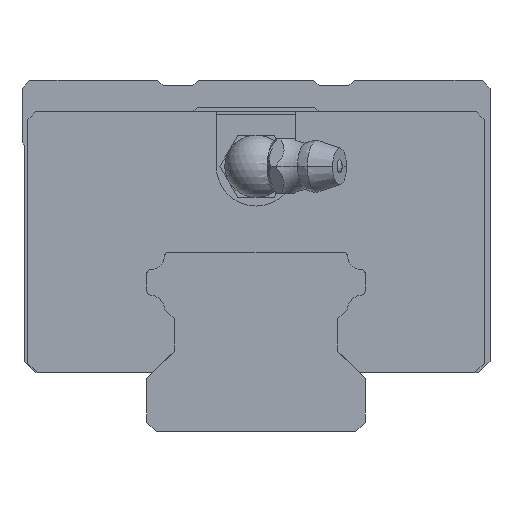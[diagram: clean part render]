
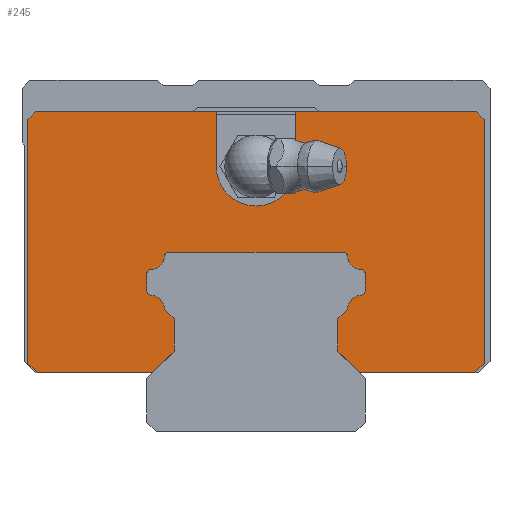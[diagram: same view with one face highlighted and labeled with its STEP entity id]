
A CAD part, front view. The second image highlights one B-rep face of the part: STEP entity #245.
In plain terms, the highlighted planar face has unit normal (0, -1, 0).
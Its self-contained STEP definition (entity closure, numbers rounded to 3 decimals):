
#245=ADVANCED_FACE('',(#554),#555,.F.);
#554=FACE_OUTER_BOUND('',#1116,.T.);
#555=PLANE('',#1117);
#1116=EDGE_LOOP('',(#1997,#1998,#1999,#2000,#2001,#2002,#2003,#2004,#2005,#2006,#2007,#2008,#2009,#2010,#2011,#2012,#2013,#2014,#2015,#2016,#2017,#2018,#2019,#2020,#2021,#2022,#2023,#2024,#2025,#2026,#2027,#2028,#2029));
#1117=AXIS2_PLACEMENT_3D('',#2030,#2031,#2032);
#1997=ORIENTED_EDGE('',*,*,#3571,.F.);
#1998=ORIENTED_EDGE('',*,*,#3572,.T.);
#1999=ORIENTED_EDGE('',*,*,#3573,.T.);
#2000=ORIENTED_EDGE('',*,*,#3574,.T.);
#2001=ORIENTED_EDGE('',*,*,#3575,.T.);
#2002=ORIENTED_EDGE('',*,*,#3576,.T.);
#2003=ORIENTED_EDGE('',*,*,#3577,.F.);
#2004=ORIENTED_EDGE('',*,*,#3578,.F.);
#2005=ORIENTED_EDGE('',*,*,#3512,.F.);
#2006=ORIENTED_EDGE('',*,*,#3579,.F.);
#2007=ORIENTED_EDGE('',*,*,#3580,.T.);
#2008=ORIENTED_EDGE('',*,*,#3581,.T.);
#2009=ORIENTED_EDGE('',*,*,#3582,.T.);
#2010=ORIENTED_EDGE('',*,*,#3583,.T.);
#2011=ORIENTED_EDGE('',*,*,#3584,.T.);
#2012=ORIENTED_EDGE('',*,*,#3585,.F.);
#2013=ORIENTED_EDGE('',*,*,#3586,.F.);
#2014=ORIENTED_EDGE('',*,*,#3587,.F.);
#2015=ORIENTED_EDGE('',*,*,#3588,.F.);
#2016=ORIENTED_EDGE('',*,*,#3589,.F.);
#2017=ORIENTED_EDGE('',*,*,#3590,.F.);
#2018=ORIENTED_EDGE('',*,*,#3591,.F.);
#2019=ORIENTED_EDGE('',*,*,#3592,.F.);
#2020=ORIENTED_EDGE('',*,*,#3593,.F.);
#2021=ORIENTED_EDGE('',*,*,#3594,.F.);
#2022=ORIENTED_EDGE('',*,*,#3595,.F.);
#2023=ORIENTED_EDGE('',*,*,#3596,.F.);
#2024=ORIENTED_EDGE('',*,*,#3597,.F.);
#2025=ORIENTED_EDGE('',*,*,#3598,.F.);
#2026=ORIENTED_EDGE('',*,*,#3599,.F.);
#2027=ORIENTED_EDGE('',*,*,#3600,.F.);
#2028=ORIENTED_EDGE('',*,*,#3601,.F.);
#2029=ORIENTED_EDGE('',*,*,#3602,.F.);
#2030=CARTESIAN_POINT('',(44.9,-13.8,24.35));
#2031=DIRECTION('',(0.0,1.0,0.0));
#2032=DIRECTION('',(1.0,0.0,0.0));
#3512=EDGE_CURVE('',#4231,#4227,#4233,.T.);
#3571=EDGE_CURVE('',#4333,#4334,#4335,.T.);
#3572=EDGE_CURVE('',#4333,#4336,#4337,.T.);
#3573=EDGE_CURVE('',#4336,#4338,#4339,.T.);
#3574=EDGE_CURVE('',#4338,#4340,#4341,.T.);
#3575=EDGE_CURVE('',#4340,#4342,#4343,.T.);
#3576=EDGE_CURVE('',#4342,#4344,#4345,.T.);
#3577=EDGE_CURVE('',#4346,#4344,#4347,.T.);
#3578=EDGE_CURVE('',#4227,#4346,#4348,.T.);
#3579=EDGE_CURVE('',#4349,#4231,#4350,.T.);
#3580=EDGE_CURVE('',#4349,#4351,#4352,.T.);
#3581=EDGE_CURVE('',#4351,#4353,#4354,.T.);
#3582=EDGE_CURVE('',#4353,#4355,#4356,.T.);
#3583=EDGE_CURVE('',#4355,#4357,#4358,.T.);
#3584=EDGE_CURVE('',#4357,#4359,#4360,.T.);
#3585=EDGE_CURVE('',#4361,#4359,#4362,.T.);
#3586=EDGE_CURVE('',#4363,#4361,#4364,.T.);
#3587=EDGE_CURVE('',#4365,#4363,#4366,.T.);
#3588=EDGE_CURVE('',#4367,#4365,#4368,.T.);
#3589=EDGE_CURVE('',#4369,#4367,#4370,.T.);
#3590=EDGE_CURVE('',#4371,#4369,#4372,.T.);
#3591=EDGE_CURVE('',#4373,#4371,#4374,.T.);
#3592=EDGE_CURVE('',#4375,#4373,#4376,.T.);
#3593=EDGE_CURVE('',#4377,#4375,#4378,.T.);
#3594=EDGE_CURVE('',#4379,#4377,#4380,.T.);
#3595=EDGE_CURVE('',#4381,#4379,#4382,.T.);
#3596=EDGE_CURVE('',#4383,#4381,#4384,.T.);
#3597=EDGE_CURVE('',#4385,#4383,#4386,.T.);
#3598=EDGE_CURVE('',#4387,#4385,#4388,.T.);
#3599=EDGE_CURVE('',#4389,#4387,#4390,.T.);
#3600=EDGE_CURVE('',#4391,#4389,#4392,.T.);
#3601=EDGE_CURVE('',#4393,#4391,#4394,.T.);
#3602=EDGE_CURVE('',#4334,#4393,#4395,.T.);
#4227=VERTEX_POINT('',#5459);
#4231=VERTEX_POINT('',#5464);
#4233=CIRCLE('',#5467,5.1);
#4333=VERTEX_POINT('',#5601);
#4334=VERTEX_POINT('',#5602);
#4335=LINE('',#5603,#5604);
#4336=VERTEX_POINT('',#5605);
#4337=LINE('',#5606,#5607);
#4338=VERTEX_POINT('',#5608);
#4339=LINE('',#5609,#5610);
#4340=VERTEX_POINT('',#5611);
#4341=LINE('',#5612,#5613);
#4342=VERTEX_POINT('',#5614);
#4343=LINE('',#5615,#5616);
#4344=VERTEX_POINT('',#5617);
#4345=LINE('',#5618,#5619);
#4346=VERTEX_POINT('',#5620);
#4347=LINE('',#5621,#5622);
#4348=CIRCLE('',#5623,5.1);
#4349=VERTEX_POINT('',#5624);
#4350=LINE('',#5625,#5626);
#4351=VERTEX_POINT('',#5627);
#4352=LINE('',#5628,#5629);
#4353=VERTEX_POINT('',#5630);
#4354=LINE('',#5631,#5632);
#4355=VERTEX_POINT('',#5633);
#4356=LINE('',#5634,#5635);
#4357=VERTEX_POINT('',#5636);
#4358=LINE('',#5637,#5638);
#4359=VERTEX_POINT('',#5639);
#4360=LINE('',#5640,#5641);
#4361=VERTEX_POINT('',#5642);
#4362=LINE('',#5643,#5644);
#4363=VERTEX_POINT('',#5645);
#4364=LINE('',#5646,#5647);
#4365=VERTEX_POINT('',#5648);
#4366=LINE('',#5649,#5650);
#4367=VERTEX_POINT('',#5651);
#4368=CIRCLE('',#5652,2.0);
#4369=VERTEX_POINT('',#5653);
#4370=CIRCLE('',#5654,0.5);
#4371=VERTEX_POINT('',#5655);
#4372=LINE('',#5656,#5657);
#4373=VERTEX_POINT('',#5658);
#4374=CIRCLE('',#5659,0.5);
#4375=VERTEX_POINT('',#5660);
#4376=CIRCLE('',#5661,2.0);
#4377=VERTEX_POINT('',#5662);
#4378=CIRCLE('',#5663,0.5);
#4379=VERTEX_POINT('',#5664);
#4380=LINE('',#5665,#5666);
#4381=VERTEX_POINT('',#5667);
#4382=CIRCLE('',#5668,0.5);
#4383=VERTEX_POINT('',#5669);
#4384=CIRCLE('',#5670,2.0);
#4385=VERTEX_POINT('',#5671);
#4386=CIRCLE('',#5672,0.5);
#4387=VERTEX_POINT('',#5673);
#4388=LINE('',#5674,#5675);
#4389=VERTEX_POINT('',#5676);
#4390=CIRCLE('',#5677,0.5);
#4391=VERTEX_POINT('',#5678);
#4392=CIRCLE('',#5679,2.0);
#4393=VERTEX_POINT('',#5680);
#4394=LINE('',#5681,#5682);
#4395=LINE('',#5683,#5684);
#5459=CARTESIAN_POINT('',(0.,-13.8,28.9));
#5464=CARTESIAN_POINT('',(-5.1,-13.8,34.0));
#5467=AXIS2_PLACEMENT_3D('',#6807,#6808,#6809);
#5601=CARTESIAN_POINT('',(13.3,-13.8,7.5));
#5602=CARTESIAN_POINT('',(10.5,-13.8,10.3));
#5603=CARTESIAN_POINT('',(20.675,-13.8,0.125));
#5604=VECTOR('',#6916,1000.0);
#5605=CARTESIAN_POINT('',(28.05,-13.8,7.5));
#5606=CARTESIAN_POINT('',(-28.05,-13.8,7.5));
#5607=VECTOR('',#6917,1000.0);
#5608=CARTESIAN_POINT('',(29.25,-13.8,8.7));
#5609=CARTESIAN_POINT('',(28.05,-13.8,7.5));
#5610=VECTOR('',#6918,1000.0);
#5611=CARTESIAN_POINT('',(29.25,-13.8,40.0));
#5612=CARTESIAN_POINT('',(29.25,-13.8,8.7));
#5613=VECTOR('',#6919,1000.0);
#5614=CARTESIAN_POINT('',(28.25,-13.8,41.0));
#5615=CARTESIAN_POINT('',(29.25,-13.8,40.0));
#5616=VECTOR('',#6920,1000.0);
#5617=CARTESIAN_POINT('',(5.1,-13.8,41.0));
#5618=CARTESIAN_POINT('',(28.25,-13.8,41.0));
#5619=VECTOR('',#6921,1000.0);
#5620=CARTESIAN_POINT('',(5.1,-13.8,34.0));
#5621=CARTESIAN_POINT('',(5.1,-13.8,34.0));
#5622=VECTOR('',#6922,1000.0);
#5623=AXIS2_PLACEMENT_3D('',#6923,#6924,#6925);
#5624=CARTESIAN_POINT('',(-5.1,-13.8,41.0));
#5625=CARTESIAN_POINT('',(-5.1,-13.8,41.0));
#5626=VECTOR('',#6926,1000.0);
#5627=CARTESIAN_POINT('',(-28.25,-13.8,41.0));
#5628=CARTESIAN_POINT('',(28.25,-13.8,41.0));
#5629=VECTOR('',#6927,1000.0);
#5630=CARTESIAN_POINT('',(-29.25,-13.8,40.0));
#5631=CARTESIAN_POINT('',(-28.25,-13.8,41.0));
#5632=VECTOR('',#6928,1000.0);
#5633=CARTESIAN_POINT('',(-29.25,-13.8,8.7));
#5634=CARTESIAN_POINT('',(-29.25,-13.8,40.0));
#5635=VECTOR('',#6929,1000.0);
#5636=CARTESIAN_POINT('',(-28.05,-13.8,7.5));
#5637=CARTESIAN_POINT('',(-29.25,-13.8,8.7));
#5638=VECTOR('',#6930,1000.0);
#5639=CARTESIAN_POINT('',(-13.3,-13.8,7.5));
#5640=CARTESIAN_POINT('',(-28.05,-13.8,7.5));
#5641=VECTOR('',#6931,1000.0);
#5642=CARTESIAN_POINT('',(-10.5,-13.8,10.3));
#5643=CARTESIAN_POINT('',(24.225,-13.8,45.025));
#5644=VECTOR('',#6932,1000.0);
#5645=CARTESIAN_POINT('',(-10.5,-13.8,14.502));
#5646=CARTESIAN_POINT('',(-10.5,-13.8,24.35));
#5647=VECTOR('',#6933,1000.0);
#5648=CARTESIAN_POINT('',(-11.701,-13.8,15.703));
#5649=CARTESIAN_POINT('',(12.276,-13.8,-8.274));
#5650=VECTOR('',#6934,1000.0);
#5651=CARTESIAN_POINT('',(-13.536,-13.8,17.496));
#5652=AXIS2_PLACEMENT_3D('',#6935,#6936,#6937);
#5653=CARTESIAN_POINT('',(-14.,-13.8,17.995));
#5654=AXIS2_PLACEMENT_3D('',#6938,#6939,#6940);
#5655=CARTESIAN_POINT('',(-14.,-13.8,20.226));
#5656=CARTESIAN_POINT('',(-14.,-13.8,24.35));
#5657=VECTOR('',#6941,1000.0);
#5658=CARTESIAN_POINT('',(-13.536,-13.8,20.725));
#5659=AXIS2_PLACEMENT_3D('',#6942,#6943,#6944);
#5660=CARTESIAN_POINT('',(-11.699,-13.8,22.544));
#5661=AXIS2_PLACEMENT_3D('',#6945,#6946,#6947);
#5662=CARTESIAN_POINT('',(-11.201,-13.8,23.0));
#5663=AXIS2_PLACEMENT_3D('',#6948,#6949,#6950);
#5664=CARTESIAN_POINT('',(11.201,-13.8,23.0));
#5665=CARTESIAN_POINT('',(44.9,-13.8,23.0));
#5666=VECTOR('',#6951,1000.0);
#5667=CARTESIAN_POINT('',(11.699,-13.8,22.544));
#5668=AXIS2_PLACEMENT_3D('',#6952,#6953,#6954);
#5669=CARTESIAN_POINT('',(13.536,-13.8,20.725));
#5670=AXIS2_PLACEMENT_3D('',#6955,#6956,#6957);
#5671=CARTESIAN_POINT('',(14.,-13.8,20.226));
#5672=AXIS2_PLACEMENT_3D('',#6958,#6959,#6960);
#5673=CARTESIAN_POINT('',(14.,-13.8,17.995));
#5674=CARTESIAN_POINT('',(14.,-13.8,24.35));
#5675=VECTOR('',#6961,1000.0);
#5676=CARTESIAN_POINT('',(13.536,-13.8,17.496));
#5677=AXIS2_PLACEMENT_3D('',#6962,#6963,#6964);
#5678=CARTESIAN_POINT('',(11.701,-13.8,15.703));
#5679=AXIS2_PLACEMENT_3D('',#6965,#6966,#6967);
#5680=CARTESIAN_POINT('',(10.5,-13.8,14.502));
#5681=CARTESIAN_POINT('',(32.624,-13.8,36.626));
#5682=VECTOR('',#6968,1000.0);
#5683=CARTESIAN_POINT('',(10.5,-13.8,24.35));
#5684=VECTOR('',#6969,1000.0);
#6807=CARTESIAN_POINT('',(0.0,-13.8,34.0));
#6808=DIRECTION('',(0.0,-1.0,0.0));
#6809=DIRECTION('',(-1.0,0.0,0.0));
#6916=DIRECTION('',(-0.707,0.0,0.707));
#6917=DIRECTION('',(1.0,0.0,0.0));
#6918=DIRECTION('',(0.707,0.0,0.707));
#6919=DIRECTION('',(0.0,0.0,1.0));
#6920=DIRECTION('',(-0.707,0.0,0.707));
#6921=DIRECTION('',(-1.0,0.0,0.0));
#6922=DIRECTION('',(0.0,0.0,1.0));
#6923=CARTESIAN_POINT('',(0.0,-13.8,34.0));
#6924=DIRECTION('',(0.0,-1.0,0.0));
#6925=DIRECTION('',(-1.0,0.0,0.0));
#6926=DIRECTION('',(0.0,0.0,-1.0));
#6927=DIRECTION('',(-1.0,0.0,0.0));
#6928=DIRECTION('',(-0.707,0.0,-0.707));
#6929=DIRECTION('',(0.0,0.0,-1.0));
#6930=DIRECTION('',(0.707,0.0,-0.707));
#6931=DIRECTION('',(1.0,0.0,0.0));
#6932=DIRECTION('',(-0.707,0.0,-0.707));
#6933=DIRECTION('',(0.0,0.0,-1.0));
#6934=DIRECTION('',(0.707,0.0,-0.707));
#6935=CARTESIAN_POINT('',(-13.691,-13.8,15.502));
#6936=DIRECTION('',(0.0,1.0,0.0));
#6937=DIRECTION('',(0.0,0.0,1.0));
#6938=CARTESIAN_POINT('',(-13.5,-13.8,17.995));
#6939=DIRECTION('',(0.0,-1.0,0.0));
#6940=DIRECTION('',(0.0,0.0,1.0));
#6941=DIRECTION('',(0.0,0.0,-1.0));
#6942=CARTESIAN_POINT('',(-13.5,-13.8,20.226));
#6943=DIRECTION('',(0.0,-1.0,0.0));
#6944=DIRECTION('',(0.0,0.0,1.0));
#6945=CARTESIAN_POINT('',(-13.691,-13.8,22.719));
#6946=DIRECTION('',(0.0,1.0,0.0));
#6947=DIRECTION('',(0.0,0.0,1.0));
#6948=CARTESIAN_POINT('',(-11.201,-13.8,22.5));
#6949=DIRECTION('',(0.0,-1.0,0.0));
#6950=DIRECTION('',(0.0,0.0,1.0));
#6951=DIRECTION('',(-1.0,0.0,0.));
#6952=CARTESIAN_POINT('',(11.201,-13.8,22.5));
#6953=DIRECTION('',(0.0,-1.0,0.0));
#6954=DIRECTION('',(0.0,0.0,1.0));
#6955=CARTESIAN_POINT('',(13.691,-13.8,22.719));
#6956=DIRECTION('',(0.0,1.0,0.0));
#6957=DIRECTION('',(0.0,0.0,1.0));
#6958=CARTESIAN_POINT('',(13.5,-13.8,20.226));
#6959=DIRECTION('',(0.0,-1.0,0.0));
#6960=DIRECTION('',(0.0,0.0,1.0));
#6961=DIRECTION('',(0.0,0.0,1.0));
#6962=CARTESIAN_POINT('',(13.5,-13.8,17.995));
#6963=DIRECTION('',(0.0,-1.0,0.0));
#6964=DIRECTION('',(0.0,0.0,1.0));
#6965=CARTESIAN_POINT('',(13.691,-13.8,15.502));
#6966=DIRECTION('',(0.0,1.0,0.0));
#6967=DIRECTION('',(0.0,0.0,1.0));
#6968=DIRECTION('',(0.707,0.0,0.707));
#6969=DIRECTION('',(0.0,0.0,1.0));
